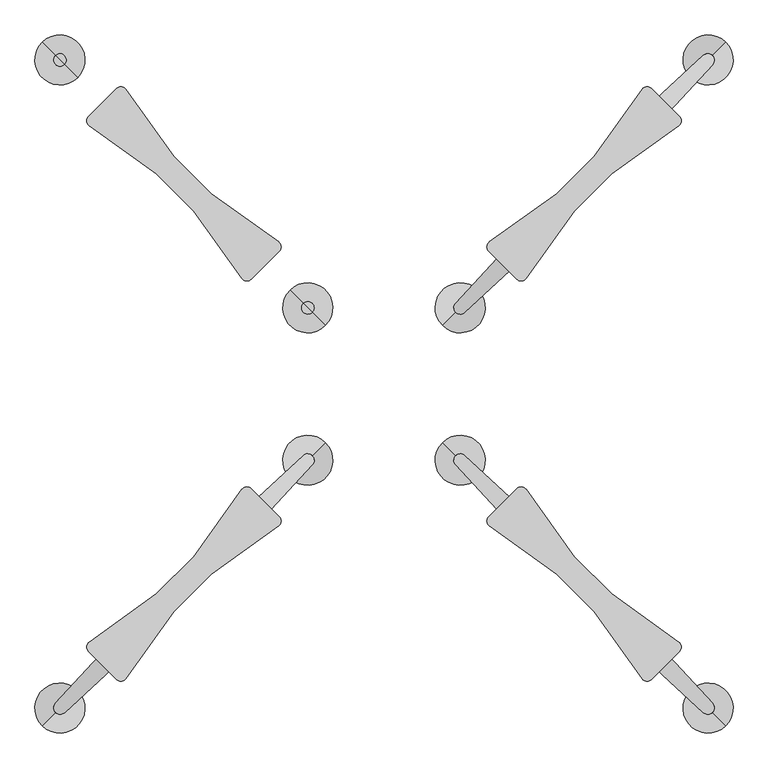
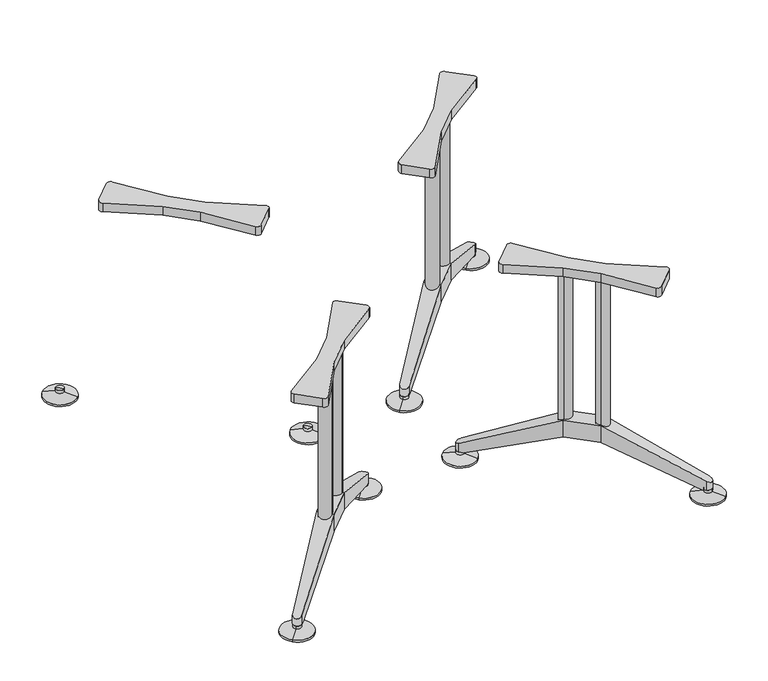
"""IFC4 building model written with IfcOpenShell, lengths in millimetres: furniture geometry, Furniture_Wilkhahn_620-24_Logon Table-Rectangle : Logon 620/23_1550L x 1550W x 730H."""

from ifc_helpers import new_model, si_unit, point, frame, frame_2d, origin, place, context, project, spatial, polyline, circle_curve, ellipse_curve, trimmed, segment, composite_curve, outline, extrude, source, transform, mapped, element, save
from ifc_brep_helpers import plane_surface, cylinder_surface, revolved_surface, advanced_brep


def furniture_db33388b(model_context):
    return source(origin(), model_context, "Body", "SolidModel", [
        advanced_brep(
        [(152.3752526, -126.4240982, 0.0), (117.0199136, -91.0687591, 0.0), (187.7305917, -161.7794373, 0.0), (117.0199136, -91.0687591, 6.0), (187.7305917, -161.7794373, 6.0), (143.5536444, -117.60249, 17.0), (161.1968609, -135.2457064, 17.0), (143.5536444, -117.60249, 27.0), (161.1968609, -135.2457064, 27.0), (152.3752526, -126.4240982, 27.0)],
        [
            (0, 1),
            (1, 2, circle_curve(frame((152.3752526, -126.4240982, 0.0), z_axis=(0.0, 0.0, -1.0), x_axis=(-0.7071067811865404, 0.7071067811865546, 0.0)), 50.0)),
            (2, 0),
            (2, 1, circle_curve(frame((152.3752526, -126.4240982, 0.0), z_axis=(0.0, 0.0, -1.0), x_axis=(-0.7071067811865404, 0.7071067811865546, 0.0)), 50.0)),
            (1, 3),
            (3, 4, circle_curve(frame((152.3752526, -126.4240982, 6.0), z_axis=(0.0, 0.0, -1.0), x_axis=(-0.7071067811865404, 0.7071067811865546, 0.0)), 50.0)),
            (4, 2),
            (4, 3, circle_curve(frame((152.3752526, -126.4240982, 6.0), z_axis=(0.0, 0.0, -1.0), x_axis=(-0.7071067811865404, 0.7071067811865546, 0.0)), 50.0)),
            (3, 5),
            (5, 6, circle_curve(frame((152.3752526, -126.4240982, 17.0), z_axis=(0.0, 0.0, -1.0), x_axis=(-0.7071067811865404, 0.7071067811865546, 0.0)), 12.475638)),
            (6, 4),
            (6, 5, circle_curve(frame((152.3752526, -126.4240982, 17.0), z_axis=(0.0, 0.0, -1.0), x_axis=(-0.7071067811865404, 0.7071067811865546, 0.0)), 12.475638)),
            (5, 7),
            (7, 8, circle_curve(frame((152.3752526, -126.4240982, 27.0), z_axis=(0.0, 0.0, -1.0), x_axis=(-0.7071067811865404, 0.7071067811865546, 0.0)), 12.475638)),
            (8, 6),
            (8, 7, circle_curve(frame((152.3752526, -126.4240982, 27.0), z_axis=(0.0, 0.0, -1.0), x_axis=(-0.7071067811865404, 0.7071067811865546, 0.0)), 12.475638)),
            (7, 9),
            (9, 8),
        ],
        [
            plane_surface(frame((152.3752526, -126.4240982, 0.0), z_axis=(0.0, 0.0, -1.0), x_axis=(-0.7071067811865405, 0.7071067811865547, 0.0))),
            cylinder_surface(frame((152.3752526, -126.4240982, 27.0), z_axis=(0.0, 0.0, -1.0), x_axis=(-0.7071067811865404, 0.7071067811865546, 0.0)), 50.0),
            revolved_surface(polyline([(143.5536444, -117.60249, 17.0), (117.0199136, -91.0687591, 6.0)]), (152.3752526, -126.4240982, 27.0), (0.0, 0.0, -1.0)),
            cylinder_surface(frame((152.3752526, -126.4240982, 27.0), z_axis=(0.0, 0.0, -1.0), x_axis=(-0.7071067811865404, 0.7071067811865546, 0.0)), 12.475638),
            plane_surface(frame((152.3752526, -126.4240982, 27.0), z_axis=(0.0, 0.0, 1.0), x_axis=(-0.7071067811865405, 0.7071067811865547, 0.0))),
        ],
        [
            (0, [[1, 2, 3]]),
            (0, [[-3, 4, -1]]),
            (1, [[-2, 5, 6, 7]]),
            (1, [[-4, -7, 8, -5]]),
            (2, [[-6, 9, 10, 11]]),
            (2, [[-8, -11, 12, -9]]),
            (3, [[-10, 13, 14, 15]]),
            (3, [[-12, -15, 16, -13]]),
            (4, [[-14, 17, 18]]),
            (4, [[-16, -18, -17]]),
        ],
    ),
        advanced_brep(
        [(612.7362202, -586.7850658, 0.0), (683.4468984, -657.4957439, 0.0), (648.0915593, -622.1404049, 0.0), (612.7362202, -586.7850658, 6.0), (683.4468984, -657.4957439, 6.0), (639.2699511, -613.3187966, 17.0), (656.9131675, -630.9620131, 17.0), (639.2699511, -613.3187966, 27.0), (656.9131675, -630.9620131, 27.0), (648.0915593, -622.1404049, 27.0)],
        [
            (0, 1, circle_curve(frame((648.0915593, -622.1404049, 0.0), z_axis=(0.0, 0.0, -1.0), x_axis=(0.7071067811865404, -0.7071067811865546, 0.0)), 50.0)),
            (1, 2),
            (2, 0),
            (1, 0, circle_curve(frame((648.0915593, -622.1404049, 0.0), z_axis=(0.0, 0.0, -1.0), x_axis=(0.7071067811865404, -0.7071067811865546, 0.0)), 50.0)),
            (3, 4, circle_curve(frame((648.0915593, -622.1404049, 6.0), z_axis=(0.0, 0.0, -1.0), x_axis=(0.7071067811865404, -0.7071067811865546, 0.0)), 50.0)),
            (4, 1),
            (0, 3),
            (4, 3, circle_curve(frame((648.0915593, -622.1404049, 6.0), z_axis=(0.0, 0.0, -1.0), x_axis=(0.7071067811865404, -0.7071067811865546, 0.0)), 50.0)),
            (5, 6, circle_curve(frame((648.0915593, -622.1404049, 17.0), z_axis=(0.0, 0.0, -1.0), x_axis=(0.7071067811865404, -0.7071067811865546, 0.0)), 12.475638)),
            (6, 4),
            (3, 5),
            (6, 5, circle_curve(frame((648.0915593, -622.1404049, 17.0), z_axis=(0.0, 0.0, -1.0), x_axis=(0.7071067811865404, -0.7071067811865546, 0.0)), 12.475638)),
            (7, 8, circle_curve(frame((648.0915593, -622.1404049, 27.0), z_axis=(0.0, 0.0, -1.0), x_axis=(0.7071067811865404, -0.7071067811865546, 0.0)), 12.475638)),
            (8, 6),
            (5, 7),
            (8, 7, circle_curve(frame((648.0915593, -622.1404049, 27.0), z_axis=(0.0, 0.0, -1.0), x_axis=(0.7071067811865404, -0.7071067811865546, 0.0)), 12.475638)),
            (9, 8),
            (7, 9),
        ],
        [
            plane_surface(frame((648.0915593, -622.1404049, 0.0), z_axis=(0.0, 0.0, -1.0), x_axis=(0.7071067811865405, -0.7071067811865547, 0.0))),
            cylinder_surface(frame((648.0915593, -622.1404049, 27.0), z_axis=(0.0, 0.0, 1.0), x_axis=(0.7071067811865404, -0.7071067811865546, 0.0)), 50.0),
            revolved_surface(polyline([(683.4468984, -657.4957439, 6.0), (656.9131675, -630.9620131, 17.0)]), (648.0915593, -622.1404049, 27.0), (0.0, 0.0, 1.0)),
            cylinder_surface(frame((648.0915593, -622.1404049, 27.0), z_axis=(0.0, 0.0, 1.0), x_axis=(0.7071067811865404, -0.7071067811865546, 0.0)), 12.475638),
            plane_surface(frame((648.0915593, -622.1404049, 27.0), z_axis=(0.0, 0.0, 1.0), x_axis=(0.7071067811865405, -0.7071067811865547, 0.0))),
        ],
        [
            (0, [[1, 2, 3]]),
            (0, [[4, -3, -2]]),
            (1, [[5, 6, -1, 7]]),
            (1, [[8, -7, -4, -6]]),
            (2, [[9, 10, -5, 11]]),
            (2, [[12, -11, -8, -10]]),
            (3, [[13, 14, -9, 15]]),
            (3, [[16, -15, -12, -14]]),
            (4, [[17, -13, 18]]),
            (4, [[-18, -16, -17]]),
        ],
    ),
        extrude(outline(composite_curve([segment(polyline([(345.079077, -354.4832617), (210.8873397, -258.073664)]), True, "CONTINUOUS"), segment(trimmed(circle_curve(frame_2d((217.8890225, -248.3280784)), 12.0), [point((210.8873397, -258.073664))], [point((209.4037411, -239.842797))], False, "CARTESIAN"), True, "CONTINUOUS"), segment(polyline([(209.4037411, -239.842797), (265.7939515, -183.4525867)]), True, "CONTINUOUS"), segment(trimmed(circle_curve(frame_2d((274.2792328, -191.9378681)), 12.0), [point((265.7939515, -183.4525867))], [point((284.0248184, -184.9361853))], False, "CARTESIAN"), True, "CONTINUOUS"), segment(polyline([(284.0248184, -184.9361853), (380.4344161, -319.1279226), (455.3877349, -394.0812414), (589.5794723, -490.4908391)]), True, "CONTINUOUS"), segment(trimmed(circle_curve(frame_2d((582.5777894, -500.2364247)), 12.0), [point((589.5794723, -490.4908391))], [point((591.0630708, -508.721706))], False, "CARTESIAN"), True, "CONTINUOUS"), segment(polyline([(591.0630708, -508.721706), (534.6728605, -565.1119164)]), True, "CONTINUOUS"), segment(trimmed(circle_curve(frame_2d((526.1875791, -556.626635)), 12.0), [point((534.6728605, -565.1119164))], [point((516.4419936, -563.6283178))], False, "CARTESIAN"), True, "CONTINUOUS"), segment(polyline([(516.4419936, -563.6283178), (420.0323958, -429.4365805), (345.079077, -354.4832617)]), True, "CONTINUOUS")], self_intersect=False)), frame((0.0, 0.0, 675.0), z_axis=(0.0, 0.0, 1.0), x_axis=(1.0, 0.0, 0.0)), (0.0, 0.0, 1.0), 29.0),
        advanced_brep(
        [(455.3877349, -394.0812414, 140.0), (380.4344161, -319.1279226, 140.0), (380.4344161, -319.1279226, 195.0), (455.3877349, -394.0812414, 195.0), (420.0323958, -429.4365805, 195.0), (345.079077, -354.4832617, 195.0), (345.079077, -354.4832617, 140.0), (420.0323958, -429.4365805, 140.0), (629.7289296, -622.8598181, 27.0), (648.8109725, -603.7777752, 27.0), (657.2764666, -612.9554976, 27.0), (656.9131675, -630.9620131, 27.0), (638.906652, -631.3253122, 27.0), (638.906652, -631.3253122, 56.4159205), (656.9131675, -630.9620131, 50.6048844), (657.2764666, -612.9554976, 56.4159205), (143.1903453, -135.6090055, 56.4159205), (143.1903453, -135.6090055, 27.0), (151.6558394, -144.7867279, 27.0), (161.5601599, -117.2391909, 27.0), (161.5601599, -117.2391909, 56.4159205), (170.7378823, -125.704685, 27.0), (143.5536444, -117.60249, 27.0), (143.5536444, -117.60249, 50.6048844)],
        [
            (0, 1),
            (1, 2),
            (2, 3),
            (3, 0),
            (4, 5),
            (5, 6),
            (6, 7),
            (7, 4),
            (8, 9),
            (9, 10),
            (10, 11, circle_curve(frame((647.7207794, -621.769625, 27.0), z_axis=(0.0, 0.0, -1.0), x_axis=(-0.7071067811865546, -0.7071067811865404, 0.0)), 13.0)),
            (11, 12, circle_curve(frame((647.7207794, -621.769625, 27.0), z_axis=(0.0, 0.0, -1.0), x_axis=(-0.7071067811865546, -0.7071067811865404, 0.0)), 13.0)),
            (12, 8),
            (3, 4),
            (4, 13),
            (13, 14, ellipse_curve(frame((647.7207794, -621.769625, 56.6601634), z_axis=(0.2985640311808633, -0.29856403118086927, 0.9064871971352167), x_axis=(0.640983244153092, -0.6409832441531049, -0.42223330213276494)), 14.341074, 13.0)),
            (14, 15, ellipse_curve(frame((647.7207794, -621.769625, 56.6601634), z_axis=(0.2985640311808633, -0.29856403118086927, 0.9064871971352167), x_axis=(0.640983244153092, -0.6409832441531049, -0.42223330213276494)), 14.341074, 13.0)),
            (15, 3),
            (7, 0),
            (0, 9),
            (8, 7),
            (16, 17),
            (17, 18),
            (18, 6),
            (5, 16),
            (19, 20),
            (20, 2),
            (1, 21),
            (21, 19),
            (2, 5),
            (6, 1),
            (19, 22, circle_curve(frame((152.7460326, -126.7948781, 27.0), z_axis=(0.0, 0.0, 1.0), x_axis=(-0.7071067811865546, -0.7071067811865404, 0.0)), 13.0)),
            (22, 17, circle_curve(frame((152.7460326, -126.7948781, 27.0), z_axis=(0.0, 0.0, 1.0), x_axis=(-0.7071067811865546, -0.7071067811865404, 0.0)), 13.0)),
            (16, 23, ellipse_curve(frame((152.7460326, -126.7948781, 56.6601634), z_axis=(0.2985640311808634, -0.2985640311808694, -0.9064871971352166), x_axis=(-0.640983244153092, 0.6409832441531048, -0.4222333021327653)), 14.341074, 13.0)),
            (23, 20, ellipse_curve(frame((152.7460326, -126.7948781, 56.6601634), z_axis=(0.2985640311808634, -0.2985640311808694, -0.9064871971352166), x_axis=(-0.640983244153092, 0.6409832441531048, -0.4222333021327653)), 14.341074, 13.0)),
            (15, 10),
            (13, 12),
            (21, 18),
        ],
        [
            plane_surface(frame((662.7492452, -601.4427517, 27.0), z_axis=(0.7071067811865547, 0.7071067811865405, 0.0), x_axis=(-0.7071067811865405, 0.7071067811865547, 0.0))),
            plane_surface(frame((627.3939061, -636.7980908, 27.0), z_axis=(-0.7071067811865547, -0.7071067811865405, 0.0), x_axis=(0.7071067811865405, -0.7071067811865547, 0.0))),
            plane_surface(frame((621.5922815, -630.9964662, 27.0), z_axis=(0.0, 0.0, -1.0), x_axis=(0.7071067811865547, 0.7071067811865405, 0.0))),
            plane_surface(frame((639.235498, -648.6396826, 50.6048844), z_axis=(0.29856403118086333, -0.2985640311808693, 0.906487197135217), x_axis=(0.7071067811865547, 0.7071067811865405, 0.0))),
            plane_surface(frame((420.0323958, -429.4365805, 140.0), z_axis=(-0.2605848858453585, 0.2605848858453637, -0.929618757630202), x_axis=(0.7071067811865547, 0.7071067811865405, 0.0))),
            plane_surface(frame((345.079077, -354.4832617, 195.0), z_axis=(-0.7350528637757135, -0.6780097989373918, 0.0), x_axis=(0.0, 0.0, -1.0))),
            plane_surface(frame((161.5601599, -117.2391909, 195.0), z_axis=(0.6780097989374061, 0.7350528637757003, 0.0), x_axis=(0.0, 0.0, -1.0))),
            plane_surface(frame((420.0323958, -429.4365805, 195.0), z_axis=(0.0, 0.0, 1.0), x_axis=(0.7071067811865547, 0.7071067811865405, 0.0))),
            plane_surface(frame((345.079077, -354.4832617, 140.0), z_axis=(0.0, 0.0, -1.0), x_axis=(0.7071067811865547, 0.7071067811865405, 0.0))),
            cylinder_surface(frame((152.7460326, -126.7948781, 0.0), z_axis=(0.0, 0.0, -1.0), x_axis=(-0.7071067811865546, -0.7071067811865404, 0.0)), 13.0),
            plane_surface(frame((455.3877349, -394.0812414, 195.0), z_axis=(0.7350528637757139, 0.6780097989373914, 0.0), x_axis=(0.0, 0.0, -1.0))),
            cylinder_surface(frame((647.7207794, -621.769625, -14.190167), z_axis=(0.0, 0.0, -1.0), x_axis=(-0.7071067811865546, -0.7071067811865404, 0.0)), 13.0),
            plane_surface(frame((638.906652, -631.3253122, 195.0), z_axis=(-0.6780097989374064, -0.7350528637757, 0.0), x_axis=(0.0, 0.0, -1.0))),
            plane_surface(frame((345.079077, -354.4832617, 195.0), z_axis=(-0.29856403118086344, 0.29856403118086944, 0.9064871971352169), x_axis=(0.7071067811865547, 0.7071067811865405, 0.0))),
            plane_surface(frame((125.8759749, -135.2801595, 27.0), z_axis=(0.0, 0.0, -1.0), x_axis=(0.7071067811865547, 0.7071067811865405, 0.0))),
            plane_surface(frame((143.5191913, -152.923376, 27.0), z_axis=(0.26058488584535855, -0.26058488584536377, -0.929618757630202), x_axis=(0.7071067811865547, 0.7071067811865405, 0.0))),
        ],
        [
            (0, [[1, 2, 3, 4]]),
            (1, [[5, 6, 7, 8]]),
            (2, [[9, 10, 11, 12, 13]]),
            (3, [[14, 15, 16, 17, 18]]),
            (4, [[19, 20, -9, 21]]),
            (5, [[22, 23, 24, -6, 25]]),
            (6, [[26, 27, -2, 28, 29]]),
            (7, [[-3, 30, -5, -14]]),
            (8, [[-1, -19, -7, 31]]),
            (9, [[-26, 32, 33, -22, 34, 35]]),
            (10, [[36, -10, -20, -4, -18]]),
            (11, [[-36, -17, -16, 37, -12, -11]]),
            (12, [[-37, -15, -8, -21, -13]]),
            (13, [[-30, -27, -35, -34, -25]]),
            (14, [[38, -23, -33, -32, -29]]),
            (15, [[-31, -24, -38, -28]]),
        ],
    ),
        extrude(outline(composite_curve([segment(trimmed(circle_curve(frame_2d((362.7567466, -336.8055921)), 20.0), [point((376.8988822, -322.6634565))], [point((348.6146109, -350.9477278))], False, "CARTESIAN"), True, "CONTINUOUS"), segment(trimmed(circle_curve(frame_2d((362.7567466, -336.8055921)), 20.0), [point((348.6146109, -350.9477278))], [point((376.8988822, -322.6634565))], False, "CARTESIAN"), True, "CONTINUOUS")], self_intersect=False)), frame((0.0, 0.0, 140.0), z_axis=(0.0, 0.0, 1.0), x_axis=(1.0, 0.0, 0.0)), (0.0, 0.0, 1.0), 535.0),
        extrude(outline(composite_curve([segment(trimmed(circle_curve(frame_2d((437.7100654, -411.7589109)), 20.0), [point((451.852201, -397.6167753))], [point((423.5679298, -425.9010466))], False, "CARTESIAN"), True, "CONTINUOUS"), segment(trimmed(circle_curve(frame_2d((437.7100654, -411.7589109)), 20.0), [point((423.5679298, -425.9010466))], [point((451.852201, -397.6167753))], False, "CARTESIAN"), True, "CONTINUOUS")], self_intersect=False)), frame((0.0, 0.0, 140.0), z_axis=(0.0, 0.0, 1.0), x_axis=(1.0, 0.0, 0.0)), (0.0, 0.0, 1.0), 535.0),
        advanced_brep(
        [(-152.3752526, -126.4240982, 0.0), (-187.7305917, -161.7794373, 0.0), (-117.0199136, -91.0687591, 0.0), (-187.7305917, -161.7794373, 6.0), (-117.0199136, -91.0687591, 6.0), (-161.1968609, -135.2457064, 17.0), (-143.5536444, -117.60249, 17.0), (-161.1968609, -135.2457064, 27.0), (-143.5536444, -117.60249, 27.0), (-152.3752526, -126.4240982, 27.0)],
        [
            (0, 1),
            (1, 2, circle_curve(frame((-152.3752526, -126.4240982, 0.0), z_axis=(0.0, 0.0, -1.0), x_axis=(0.7071067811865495, 0.7071067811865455, 0.0)), 50.0)),
            (2, 0),
            (2, 1, circle_curve(frame((-152.3752526, -126.4240982, 0.0), z_axis=(0.0, 0.0, -1.0), x_axis=(0.7071067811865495, 0.7071067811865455, 0.0)), 50.0)),
            (1, 3),
            (3, 4, circle_curve(frame((-152.3752526, -126.4240982, 6.0), z_axis=(0.0, 0.0, -1.0), x_axis=(0.7071067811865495, 0.7071067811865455, 0.0)), 50.0)),
            (4, 2),
            (4, 3, circle_curve(frame((-152.3752526, -126.4240982, 6.0), z_axis=(0.0, 0.0, -1.0), x_axis=(0.7071067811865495, 0.7071067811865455, 0.0)), 50.0)),
            (3, 5),
            (5, 6, circle_curve(frame((-152.3752526, -126.4240982, 17.0), z_axis=(0.0, 0.0, -1.0), x_axis=(0.7071067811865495, 0.7071067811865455, 0.0)), 12.475638)),
            (6, 4),
            (6, 5, circle_curve(frame((-152.3752526, -126.4240982, 17.0), z_axis=(0.0, 0.0, -1.0), x_axis=(0.7071067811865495, 0.7071067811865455, 0.0)), 12.475638)),
            (5, 7),
            (7, 8, circle_curve(frame((-152.3752526, -126.4240982, 27.0), z_axis=(0.0, 0.0, -1.0), x_axis=(0.7071067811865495, 0.7071067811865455, 0.0)), 12.475638)),
            (8, 6),
            (8, 7, circle_curve(frame((-152.3752526, -126.4240982, 27.0), z_axis=(0.0, 0.0, -1.0), x_axis=(0.7071067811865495, 0.7071067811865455, 0.0)), 12.475638)),
            (7, 9),
            (9, 8),
        ],
        [
            plane_surface(frame((-152.3752526, -126.4240982, 0.0), z_axis=(0.0, 0.0, -1.0), x_axis=(0.7071067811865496, 0.7071067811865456, 0.0))),
            cylinder_surface(frame((-152.3752526, -126.4240982, 27.0), z_axis=(0.0, 0.0, -1.0), x_axis=(0.7071067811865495, 0.7071067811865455, 0.0)), 50.0),
            revolved_surface(polyline([(-143.5536444, -117.60249, 17.0), (-117.0199136, -91.0687591, 6.0)]), (-152.3752526, -126.4240982, 27.0), (0.0, 0.0, -1.0)),
            cylinder_surface(frame((-152.3752526, -126.4240982, 27.0), z_axis=(0.0, 0.0, -1.0), x_axis=(0.7071067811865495, 0.7071067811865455, 0.0)), 12.475638),
            plane_surface(frame((-152.3752526, -126.4240982, 27.0), z_axis=(0.0, 0.0, 1.0), x_axis=(0.7071067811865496, 0.7071067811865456, 0.0))),
        ],
        [
            (0, [[1, 2, 3]]),
            (0, [[-3, 4, -1]]),
            (1, [[5, 6, 7, -2]]),
            (1, [[-7, 8, -5, -4]]),
            (2, [[9, 10, 11, -6]]),
            (2, [[-11, 12, -9, -8]]),
            (3, [[13, 14, 15, -10]]),
            (3, [[-15, 16, -13, -12]]),
            (4, [[17, 18, -14]]),
            (4, [[-18, -17, -16]]),
        ],
    ),
        advanced_brep(
        [(-612.7362202, -586.7850658, 0.0), (-648.0915593, -622.1404049, 0.0), (-683.4468984, -657.4957439, 0.0), (-612.7362202, -586.7850658, 6.0), (-683.4468984, -657.4957439, 6.0), (-639.2699511, -613.3187966, 17.0), (-656.9131675, -630.9620131, 17.0), (-639.2699511, -613.3187966, 27.0), (-656.9131675, -630.9620131, 27.0), (-648.0915593, -622.1404049, 27.0)],
        [
            (0, 1),
            (1, 2),
            (2, 0, circle_curve(frame((-648.0915593, -622.1404049, 0.0), z_axis=(0.0, 0.0, -1.0), x_axis=(-0.7071067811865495, -0.7071067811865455, 0.0)), 50.0)),
            (0, 2, circle_curve(frame((-648.0915593, -622.1404049, 0.0), z_axis=(0.0, 0.0, -1.0), x_axis=(-0.7071067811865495, -0.7071067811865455, 0.0)), 50.0)),
            (3, 0),
            (2, 4),
            (4, 3, circle_curve(frame((-648.0915593, -622.1404049, 6.0), z_axis=(0.0, 0.0, -1.0), x_axis=(-0.7071067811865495, -0.7071067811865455, 0.0)), 50.0)),
            (3, 4, circle_curve(frame((-648.0915593, -622.1404049, 6.0), z_axis=(0.0, 0.0, -1.0), x_axis=(-0.7071067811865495, -0.7071067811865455, 0.0)), 50.0)),
            (5, 3),
            (4, 6),
            (6, 5, circle_curve(frame((-648.0915593, -622.1404049, 17.0), z_axis=(0.0, 0.0, -1.0), x_axis=(-0.7071067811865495, -0.7071067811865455, 0.0)), 12.475638)),
            (5, 6, circle_curve(frame((-648.0915593, -622.1404049, 17.0), z_axis=(0.0, 0.0, -1.0), x_axis=(-0.7071067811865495, -0.7071067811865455, 0.0)), 12.475638)),
            (7, 5),
            (6, 8),
            (8, 7, circle_curve(frame((-648.0915593, -622.1404049, 27.0), z_axis=(0.0, 0.0, -1.0), x_axis=(-0.7071067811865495, -0.7071067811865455, 0.0)), 12.475638)),
            (7, 8, circle_curve(frame((-648.0915593, -622.1404049, 27.0), z_axis=(0.0, 0.0, -1.0), x_axis=(-0.7071067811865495, -0.7071067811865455, 0.0)), 12.475638)),
            (9, 7),
            (8, 9),
        ],
        [
            plane_surface(frame((-648.0915593, -622.1404049, 0.0), z_axis=(0.0, 0.0, -1.0), x_axis=(-0.7071067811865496, -0.7071067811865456, 0.0))),
            cylinder_surface(frame((-648.0915593, -622.1404049, 27.0), z_axis=(0.0, 0.0, 1.0), x_axis=(-0.7071067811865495, -0.7071067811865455, 0.0)), 50.0),
            revolved_surface(polyline([(-683.4468984, -657.4957439, 6.0), (-656.9131675, -630.9620131, 17.0)]), (-648.0915593, -622.1404049, 27.0), (0.0, 0.0, 1.0)),
            cylinder_surface(frame((-648.0915593, -622.1404049, 27.0), z_axis=(0.0, 0.0, 1.0), x_axis=(-0.7071067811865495, -0.7071067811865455, 0.0)), 12.475638),
            plane_surface(frame((-648.0915593, -622.1404049, 27.0), z_axis=(0.0, 0.0, 1.0), x_axis=(-0.7071067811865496, -0.7071067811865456, 0.0))),
        ],
        [
            (0, [[1, 2, 3]]),
            (0, [[-2, -1, 4]]),
            (1, [[5, -3, 6, 7]]),
            (1, [[-6, -4, -5, 8]]),
            (2, [[9, -7, 10, 11]]),
            (2, [[-10, -8, -9, 12]]),
            (3, [[13, -11, 14, 15]]),
            (3, [[-14, -12, -13, 16]]),
            (4, [[17, -15, 18]]),
            (4, [[-18, -16, -17]]),
        ],
    ),
        extrude(outline(composite_curve([segment(polyline([(-345.079077, -354.4832617), (-420.0323958, -429.4365805), (-516.4419936, -563.6283178)]), True, "CONTINUOUS"), segment(trimmed(circle_curve(frame_2d((-526.1875791, -556.626635)), 12.0), [point((-516.4419936, -563.6283178))], [point((-534.6728605, -565.1119164))], False, "CARTESIAN"), True, "CONTINUOUS"), segment(polyline([(-534.6728605, -565.1119164), (-591.0630708, -508.721706)]), True, "CONTINUOUS"), segment(trimmed(circle_curve(frame_2d((-582.5777894, -500.2364247)), 12.0), [point((-591.0630708, -508.721706))], [point((-589.5794723, -490.4908391))], False, "CARTESIAN"), True, "CONTINUOUS"), segment(polyline([(-589.5794723, -490.4908391), (-455.3877349, -394.0812414), (-380.4344161, -319.1279226), (-284.0248184, -184.9361853)]), True, "CONTINUOUS"), segment(trimmed(circle_curve(frame_2d((-274.2792328, -191.9378681)), 12.0), [point((-284.0248184, -184.9361853))], [point((-265.7939515, -183.4525867))], False, "CARTESIAN"), True, "CONTINUOUS"), segment(polyline([(-265.7939515, -183.4525867), (-209.4037411, -239.842797)]), True, "CONTINUOUS"), segment(trimmed(circle_curve(frame_2d((-217.8890225, -248.3280784)), 12.0), [point((-209.4037411, -239.842797))], [point((-210.8873397, -258.073664))], False, "CARTESIAN"), True, "CONTINUOUS"), segment(polyline([(-210.8873397, -258.073664), (-345.079077, -354.4832617)]), True, "CONTINUOUS")], self_intersect=False)), frame((0.0, 0.0, 675.0), z_axis=(0.0, 0.0, 1.0), x_axis=(1.0, 0.0, 0.0)), (0.0, 0.0, 1.0), 29.0),
        advanced_brep(
        [(-455.3877349, -394.0812414, 140.0), (-455.3877349, -394.0812414, 195.0), (-380.4344161, -319.1279226, 195.0), (-380.4344161, -319.1279226, 140.0), (-420.0323958, -429.4365805, 195.0), (-420.0323958, -429.4365805, 140.0), (-345.079077, -354.4832617, 140.0), (-345.079077, -354.4832617, 195.0), (-629.7289296, -622.8598181, 27.0), (-638.906652, -631.3253122, 27.0), (-656.9131675, -630.9620131, 27.0), (-657.2764666, -612.9554976, 27.0), (-648.8109725, -603.7777752, 27.0), (-657.2764666, -612.9554976, 56.4159205), (-656.9131675, -630.9620131, 50.6048844), (-638.906652, -631.3253122, 56.4159205), (-143.1903453, -135.6090055, 56.4159205), (-151.6558394, -144.7867279, 27.0), (-143.1903453, -135.6090055, 27.0), (-161.5601599, -117.2391909, 27.0), (-170.7378823, -125.704685, 27.0), (-161.5601599, -117.2391909, 56.4159205), (-143.5536444, -117.60249, 50.6048844), (-143.5536444, -117.60249, 27.0)],
        [
            (0, 1),
            (1, 2),
            (2, 3),
            (3, 0),
            (4, 5),
            (5, 6),
            (6, 7),
            (7, 4),
            (8, 9),
            (9, 10, circle_curve(frame((-647.7207794, -621.769625, 27.0), z_axis=(0.0, 0.0, -1.0), x_axis=(0.7071067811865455, -0.7071067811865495, 0.0)), 13.0)),
            (10, 11, circle_curve(frame((-647.7207794, -621.769625, 27.0), z_axis=(0.0, 0.0, -1.0), x_axis=(0.7071067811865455, -0.7071067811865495, 0.0)), 13.0)),
            (11, 12),
            (12, 8),
            (1, 13),
            (13, 14, ellipse_curve(frame((-647.7207794, -621.769625, 56.6601634), z_axis=(-0.2985640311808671, -0.29856403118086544, 0.9064871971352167), x_axis=(-0.6409832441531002, -0.6409832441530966, -0.42223330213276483)), 14.341074, 13.0)),
            (14, 15, ellipse_curve(frame((-647.7207794, -621.769625, 56.6601634), z_axis=(-0.2985640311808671, -0.29856403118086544, 0.9064871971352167), x_axis=(-0.6409832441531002, -0.6409832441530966, -0.42223330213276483)), 14.341074, 13.0)),
            (15, 4),
            (4, 1),
            (5, 8),
            (12, 0),
            (0, 5),
            (16, 7),
            (6, 17),
            (17, 18),
            (18, 16),
            (19, 20),
            (20, 3),
            (2, 21),
            (21, 19),
            (7, 2),
            (3, 6),
            (21, 22, ellipse_curve(frame((-152.7460326, -126.7948781, 56.6601634), z_axis=(-0.2985640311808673, -0.29856403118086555, -0.9064871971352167), x_axis=(0.6409832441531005, 0.6409832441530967, -0.4222333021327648)), 14.341074, 13.0)),
            (22, 16, ellipse_curve(frame((-152.7460326, -126.7948781, 56.6601634), z_axis=(-0.2985640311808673, -0.29856403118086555, -0.9064871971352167), x_axis=(0.6409832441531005, 0.6409832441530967, -0.4222333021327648)), 14.341074, 13.0)),
            (18, 23, circle_curve(frame((-152.7460326, -126.7948781, 27.0), z_axis=(0.0, 0.0, 1.0), x_axis=(0.7071067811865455, -0.7071067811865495, 0.0)), 13.0)),
            (23, 19, circle_curve(frame((-152.7460326, -126.7948781, 27.0), z_axis=(0.0, 0.0, 1.0), x_axis=(0.7071067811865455, -0.7071067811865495, 0.0)), 13.0)),
            (11, 13),
            (9, 15),
            (17, 20),
        ],
        [
            plane_surface(frame((-662.7492452, -601.4427517, 27.0), z_axis=(-0.7071067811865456, 0.7071067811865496, 0.0), x_axis=(0.7071067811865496, 0.7071067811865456, 0.0))),
            plane_surface(frame((-627.3939061, -636.7980908, 27.0), z_axis=(0.7071067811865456, -0.7071067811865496, 0.0), x_axis=(-0.7071067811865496, -0.7071067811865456, 0.0))),
            plane_surface(frame((-621.5922815, -630.9964662, 27.0), z_axis=(0.0, 0.0, -1.0), x_axis=(-0.7071067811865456, 0.7071067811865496, 0.0))),
            plane_surface(frame((-639.235498, -648.6396826, 50.6048844), z_axis=(-0.29856403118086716, -0.2985640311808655, 0.906487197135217), x_axis=(-0.7071067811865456, 0.7071067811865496, 0.0))),
            plane_surface(frame((-420.0323958, -429.4365805, 140.0), z_axis=(0.2605848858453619, 0.2605848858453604, -0.9296187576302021), x_axis=(-0.7071067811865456, 0.7071067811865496, 0.0))),
            plane_surface(frame((-345.079077, -354.4832617, 195.0), z_axis=(0.7350528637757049, -0.6780097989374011, 0.0), x_axis=(0.0, 0.0, -1.0))),
            plane_surface(frame((-161.5601599, -117.2391909, 195.0), z_axis=(-0.6780097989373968, 0.735052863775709, 0.0), x_axis=(0.0, 0.0, -1.0))),
            plane_surface(frame((-420.0323958, -429.4365805, 195.0), z_axis=(0.0, 0.0, 1.0), x_axis=(-0.7071067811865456, 0.7071067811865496, 0.0))),
            plane_surface(frame((-345.079077, -354.4832617, 140.0), z_axis=(0.0, 0.0, -1.0), x_axis=(-0.7071067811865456, 0.7071067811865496, 0.0))),
            cylinder_surface(frame((-152.7460326, -126.7948781, 0.0), z_axis=(0.0, 0.0, -1.0), x_axis=(0.7071067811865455, -0.7071067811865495, 0.0)), 13.0),
            plane_surface(frame((-455.3877349, -394.0812414, 195.0), z_axis=(-0.7350528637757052, 0.6780097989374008, 0.0), x_axis=(0.0, 0.0, -1.0))),
            cylinder_surface(frame((-647.7207794, -621.769625, -14.190167), z_axis=(0.0, 0.0, -1.0), x_axis=(0.7071067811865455, -0.7071067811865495, 0.0)), 13.0),
            plane_surface(frame((-638.906652, -631.3253122, 195.0), z_axis=(0.6780097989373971, -0.7350528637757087, 0.0), x_axis=(0.0, 0.0, -1.0))),
            plane_surface(frame((-345.079077, -354.4832617, 195.0), z_axis=(0.2985640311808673, 0.29856403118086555, 0.9064871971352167), x_axis=(-0.7071067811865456, 0.7071067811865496, 0.0))),
            plane_surface(frame((-125.8759749, -135.2801595, 27.0), z_axis=(0.0, 0.0, -1.0), x_axis=(-0.7071067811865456, 0.7071067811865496, 0.0))),
            plane_surface(frame((-143.5191913, -152.923376, 27.0), z_axis=(-0.26058488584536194, -0.2605848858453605, -0.9296187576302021), x_axis=(-0.7071067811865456, 0.7071067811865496, 0.0))),
        ],
        [
            (0, [[1, 2, 3, 4]]),
            (1, [[5, 6, 7, 8]]),
            (2, [[9, 10, 11, 12, 13]]),
            (3, [[14, 15, 16, 17, 18]]),
            (4, [[19, -13, 20, 21]]),
            (5, [[22, -7, 23, 24, 25]]),
            (6, [[26, 27, -3, 28, 29]]),
            (7, [[-18, -8, 30, -2]]),
            (8, [[31, -6, -21, -4]]),
            (9, [[32, 33, -25, 34, 35, -29]]),
            (10, [[-14, -1, -20, -12, 36]]),
            (11, [[-11, -10, 37, -16, -15, -36]]),
            (12, [[-9, -19, -5, -17, -37]]),
            (13, [[-22, -33, -32, -28, -30]]),
            (14, [[-26, -35, -34, -24, 38]]),
            (15, [[-27, -38, -23, -31]]),
        ],
    ),
        extrude(outline(composite_curve([segment(trimmed(circle_curve(frame_2d((-362.7567466, -336.8055921)), 20.0), [point((-376.8988822, -322.6634565))], [point((-348.6146109, -350.9477278))], False, "CARTESIAN"), True, "CONTINUOUS"), segment(trimmed(circle_curve(frame_2d((-362.7567466, -336.8055921)), 20.0), [point((-348.6146109, -350.9477278))], [point((-376.8988822, -322.6634565))], False, "CARTESIAN"), True, "CONTINUOUS")], self_intersect=False)), frame((0.0, 0.0, 140.0), z_axis=(0.0, 0.0, 1.0), x_axis=(1.0, 0.0, 0.0)), (0.0, 0.0, 1.0), 535.0),
        extrude(outline(composite_curve([segment(trimmed(circle_curve(frame_2d((-437.7100654, -411.7589109)), 20.0), [point((-451.852201, -397.6167753))], [point((-423.5679298, -425.9010466))], False, "CARTESIAN"), True, "CONTINUOUS"), segment(trimmed(circle_curve(frame_2d((-437.7100654, -411.7589109)), 20.0), [point((-423.5679298, -425.9010466))], [point((-451.852201, -397.6167753))], False, "CARTESIAN"), True, "CONTINUOUS")], self_intersect=False)), frame((0.0, 0.0, 140.0), z_axis=(0.0, 0.0, 1.0), x_axis=(1.0, 0.0, 0.0)), (0.0, 0.0, 1.0), 535.0),
        advanced_brep(
        [(152.3752526, 178.3264071, 0.0), (187.7305917, 213.6817461, 0.0), (117.0199136, 142.971068, 0.0), (187.7305917, 213.6817461, 6.0), (117.0199136, 142.971068, 6.0), (161.1968609, 187.1480153, 17.0), (143.5536444, 169.5047988, 17.0), (161.1968609, 187.1480153, 27.0), (143.5536444, 169.5047988, 27.0), (152.3752526, 178.3264071, 27.0)],
        [
            (0, 1),
            (1, 2, circle_curve(frame((152.3752526, 178.3264071, 0.0), z_axis=(0.0, 0.0, -1.0), x_axis=(-0.7071067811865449, -0.70710678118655, 0.0)), 50.0)),
            (2, 0),
            (2, 1, circle_curve(frame((152.3752526, 178.3264071, 0.0), z_axis=(0.0, 0.0, -1.0), x_axis=(-0.7071067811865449, -0.70710678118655, 0.0)), 50.0)),
            (1, 3),
            (3, 4, circle_curve(frame((152.3752526, 178.3264071, 6.0), z_axis=(0.0, 0.0, -1.0), x_axis=(-0.7071067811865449, -0.70710678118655, 0.0)), 50.0)),
            (4, 2),
            (4, 3, circle_curve(frame((152.3752526, 178.3264071, 6.0), z_axis=(0.0, 0.0, -1.0), x_axis=(-0.7071067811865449, -0.70710678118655, 0.0)), 50.0)),
            (3, 5),
            (5, 6, circle_curve(frame((152.3752526, 178.3264071, 17.0), z_axis=(0.0, 0.0, -1.0), x_axis=(-0.7071067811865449, -0.70710678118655, 0.0)), 12.475638)),
            (6, 4),
            (6, 5, circle_curve(frame((152.3752526, 178.3264071, 17.0), z_axis=(0.0, 0.0, -1.0), x_axis=(-0.7071067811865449, -0.70710678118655, 0.0)), 12.475638)),
            (5, 7),
            (7, 8, circle_curve(frame((152.3752526, 178.3264071, 27.0), z_axis=(0.0, 0.0, -1.0), x_axis=(-0.7071067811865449, -0.70710678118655, 0.0)), 12.475638)),
            (8, 6),
            (8, 7, circle_curve(frame((152.3752526, 178.3264071, 27.0), z_axis=(0.0, 0.0, -1.0), x_axis=(-0.7071067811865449, -0.70710678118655, 0.0)), 12.475638)),
            (7, 9),
            (9, 8),
        ],
        [
            plane_surface(frame((152.3752526, 178.3264071, 0.0), z_axis=(0.0, 0.0, -1.0), x_axis=(-0.707106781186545, -0.7071067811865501, 0.0))),
            cylinder_surface(frame((152.3752526, 178.3264071, 27.0), z_axis=(0.0, 0.0, -1.0), x_axis=(-0.7071067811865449, -0.70710678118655, 0.0)), 50.0),
            revolved_surface(polyline([(143.5536444, 169.5047988, 17.0), (117.0199136, 142.971068, 6.0)]), (152.3752526, 178.3264071, 27.0), (0.0, 0.0, -1.0)),
            cylinder_surface(frame((152.3752526, 178.3264071, 27.0), z_axis=(0.0, 0.0, -1.0), x_axis=(-0.7071067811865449, -0.70710678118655, 0.0)), 12.475638),
            plane_surface(frame((152.3752526, 178.3264071, 27.0), z_axis=(0.0, 0.0, 1.0), x_axis=(-0.707106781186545, -0.7071067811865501, 0.0))),
        ],
        [
            (0, [[1, 2, 3]]),
            (0, [[-3, 4, -1]]),
            (1, [[5, 6, 7, -2]]),
            (1, [[-7, 8, -5, -4]]),
            (2, [[9, 10, 11, -6]]),
            (2, [[-11, 12, -9, -8]]),
            (3, [[13, 14, 15, -10]]),
            (3, [[-15, 16, -13, -12]]),
            (4, [[17, 18, -14]]),
            (4, [[-18, -17, -16]]),
        ],
    ),
        advanced_brep(
        [(612.7362202, 638.6873747, 0.0), (648.0915593, 674.0427137, 0.0), (683.4468984, 709.3980528, 0.0), (612.7362202, 638.6873747, 6.0), (683.4468984, 709.3980528, 6.0), (639.2699511, 665.2211055, 17.0), (656.9131675, 682.864322, 17.0), (639.2699511, 665.2211055, 27.0), (656.9131675, 682.864322, 27.0), (648.0915593, 674.0427137, 27.0)],
        [
            (0, 1),
            (1, 2),
            (2, 0, circle_curve(frame((648.0915593, 674.0427137, 0.0), z_axis=(0.0, 0.0, -1.0), x_axis=(0.7071067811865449, 0.70710678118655, 0.0)), 50.0)),
            (0, 2, circle_curve(frame((648.0915593, 674.0427137, 0.0), z_axis=(0.0, 0.0, -1.0), x_axis=(0.7071067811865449, 0.70710678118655, 0.0)), 50.0)),
            (3, 0),
            (2, 4),
            (4, 3, circle_curve(frame((648.0915593, 674.0427137, 6.0), z_axis=(0.0, 0.0, -1.0), x_axis=(0.7071067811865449, 0.70710678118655, 0.0)), 50.0)),
            (3, 4, circle_curve(frame((648.0915593, 674.0427137, 6.0), z_axis=(0.0, 0.0, -1.0), x_axis=(0.7071067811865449, 0.70710678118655, 0.0)), 50.0)),
            (5, 3),
            (4, 6),
            (6, 5, circle_curve(frame((648.0915593, 674.0427137, 17.0), z_axis=(0.0, 0.0, -1.0), x_axis=(0.7071067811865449, 0.70710678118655, 0.0)), 12.475638)),
            (5, 6, circle_curve(frame((648.0915593, 674.0427137, 17.0), z_axis=(0.0, 0.0, -1.0), x_axis=(0.7071067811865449, 0.70710678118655, 0.0)), 12.475638)),
            (7, 5),
            (6, 8),
            (8, 7, circle_curve(frame((648.0915593, 674.0427137, 27.0), z_axis=(0.0, 0.0, -1.0), x_axis=(0.7071067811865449, 0.70710678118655, 0.0)), 12.475638)),
            (7, 8, circle_curve(frame((648.0915593, 674.0427137, 27.0), z_axis=(0.0, 0.0, -1.0), x_axis=(0.7071067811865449, 0.70710678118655, 0.0)), 12.475638)),
            (9, 7),
            (8, 9),
        ],
        [
            plane_surface(frame((648.0915593, 674.0427137, 0.0), z_axis=(0.0, 0.0, -1.0), x_axis=(0.707106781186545, 0.7071067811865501, 0.0))),
            cylinder_surface(frame((648.0915593, 674.0427137, 27.0), z_axis=(0.0, 0.0, 1.0), x_axis=(0.7071067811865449, 0.70710678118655, 0.0)), 50.0),
            revolved_surface(polyline([(683.4468984, 709.3980528, 6.0), (656.9131675, 682.864322, 17.0)]), (648.0915593, 674.0427137, 27.0), (0.0, 0.0, 1.0)),
            cylinder_surface(frame((648.0915593, 674.0427137, 27.0), z_axis=(0.0, 0.0, 1.0), x_axis=(0.7071067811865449, 0.70710678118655, 0.0)), 12.475638),
            plane_surface(frame((648.0915593, 674.0427137, 27.0), z_axis=(0.0, 0.0, 1.0), x_axis=(0.707106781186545, 0.7071067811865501, 0.0))),
        ],
        [
            (0, [[1, 2, 3]]),
            (0, [[-2, -1, 4]]),
            (1, [[5, -3, 6, 7]]),
            (1, [[-6, -4, -5, 8]]),
            (2, [[9, -7, 10, 11]]),
            (2, [[-10, -8, -9, 12]]),
            (3, [[13, -11, 14, 15]]),
            (3, [[-14, -12, -13, 16]]),
            (4, [[17, -15, 18]]),
            (4, [[-18, -16, -17]]),
        ],
    ),
        extrude(outline(composite_curve([segment(polyline([(345.079077, 406.3855705), (420.0323958, 481.3388893), (516.4419936, 615.5306267)]), True, "CONTINUOUS"), segment(trimmed(circle_curve(frame_2d((526.1875791, 608.5289439)), 12.0), [point((516.4419936, 615.5306267))], [point((534.6728605, 617.0142252))], False, "CARTESIAN"), True, "CONTINUOUS"), segment(polyline([(534.6728605, 617.0142252), (591.0630708, 560.6240149)]), True, "CONTINUOUS"), segment(trimmed(circle_curve(frame_2d((582.5777894, 552.1387335)), 12.0), [point((591.0630708, 560.6240149))], [point((589.5794723, 542.393148))], False, "CARTESIAN"), True, "CONTINUOUS"), segment(polyline([(589.5794723, 542.393148), (455.3877349, 445.9835503), (380.4344161, 371.0302315), (284.0248184, 236.8384941)]), True, "CONTINUOUS"), segment(trimmed(circle_curve(frame_2d((274.2792328, 243.8401769)), 12.0), [point((284.0248184, 236.8384941))], [point((265.7939515, 235.3548956))], False, "CARTESIAN"), True, "CONTINUOUS"), segment(polyline([(265.7939515, 235.3548956), (209.4037411, 291.7451059)]), True, "CONTINUOUS"), segment(trimmed(circle_curve(frame_2d((217.8890225, 300.2303873)), 12.0), [point((209.4037411, 291.7451059))], [point((210.8873397, 309.9759728))], False, "CARTESIAN"), True, "CONTINUOUS"), segment(polyline([(210.8873397, 309.9759728), (345.079077, 406.3855705)]), True, "CONTINUOUS")], self_intersect=False)), frame((0.0, 0.0, 675.0), z_axis=(0.0, 0.0, 1.0), x_axis=(1.0, 0.0, 0.0)), (0.0, 0.0, 1.0), 29.0),
        advanced_brep(
        [(455.3877349, 445.9835503, 140.0), (455.3877349, 445.9835503, 195.0), (380.4344161, 371.0302315, 195.0), (380.4344161, 371.0302315, 140.0), (420.0323958, 481.3388893, 195.0), (420.0323958, 481.3388893, 140.0), (345.079077, 406.3855705, 140.0), (345.079077, 406.3855705, 195.0), (629.7289296, 674.7621269, 27.0), (638.906652, 683.227621, 27.0), (656.9131675, 682.864322, 27.0), (657.2764666, 664.8578064, 27.0), (648.8109725, 655.6800841, 27.0), (657.2764666, 664.8578064, 56.4159205), (656.9131675, 682.864322, 50.6048844), (638.906652, 683.227621, 56.4159205), (143.1903453, 187.5113144, 56.4159205), (151.6558394, 196.6890367, 27.0), (143.1903453, 187.5113144, 27.0), (161.5601599, 169.1414998, 27.0), (170.7378823, 177.6069939, 27.0), (161.5601599, 169.1414998, 56.4159205), (143.5536444, 169.5047988, 50.6048844), (143.5536444, 169.5047988, 27.0)],
        [
            (0, 1),
            (1, 2),
            (2, 3),
            (3, 0),
            (4, 5),
            (5, 6),
            (6, 7),
            (7, 4),
            (8, 9),
            (9, 10, circle_curve(frame((647.7207794, 673.6719338, 27.0), z_axis=(0.0, 0.0, -1.0), x_axis=(-0.70710678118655, 0.7071067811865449, 0.0)), 13.0)),
            (10, 11, circle_curve(frame((647.7207794, 673.6719338, 27.0), z_axis=(0.0, 0.0, -1.0), x_axis=(-0.70710678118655, 0.7071067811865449, 0.0)), 13.0)),
            (11, 12),
            (12, 8),
            (1, 13),
            (13, 14, ellipse_curve(frame((647.7207794, 673.6719338, 56.6601634), z_axis=(0.2985640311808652, 0.29856403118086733, 0.9064871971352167), x_axis=(0.6409832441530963, 0.6409832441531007, -0.42223330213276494)), 14.341074, 13.0)),
            (14, 15, ellipse_curve(frame((647.7207794, 673.6719338, 56.6601634), z_axis=(0.2985640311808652, 0.29856403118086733, 0.9064871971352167), x_axis=(0.6409832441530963, 0.6409832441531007, -0.42223330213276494)), 14.341074, 13.0)),
            (15, 4),
            (4, 1),
            (5, 8),
            (12, 0),
            (0, 5),
            (16, 7),
            (6, 17),
            (17, 18),
            (18, 16),
            (19, 20),
            (20, 3),
            (2, 21),
            (21, 19),
            (7, 2),
            (3, 6),
            (21, 22, ellipse_curve(frame((152.7460326, 178.697187, 56.6601634), z_axis=(0.2985640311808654, 0.29856403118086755, -0.9064871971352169), x_axis=(-0.6409832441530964, -0.6409832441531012, -0.4222333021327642)), 14.341074, 13.0)),
            (22, 16, ellipse_curve(frame((152.7460326, 178.697187, 56.6601634), z_axis=(0.2985640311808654, 0.29856403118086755, -0.9064871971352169), x_axis=(-0.6409832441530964, -0.6409832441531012, -0.4222333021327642)), 14.341074, 13.0)),
            (18, 23, circle_curve(frame((152.7460326, 178.697187, 27.0), z_axis=(0.0, 0.0, 1.0), x_axis=(-0.70710678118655, 0.7071067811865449, 0.0)), 13.0)),
            (23, 19, circle_curve(frame((152.7460326, 178.697187, 27.0), z_axis=(0.0, 0.0, 1.0), x_axis=(-0.70710678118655, 0.7071067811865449, 0.0)), 13.0)),
            (11, 13),
            (9, 15),
            (17, 20),
        ],
        [
            plane_surface(frame((662.7492452, 653.3450606, 27.0), z_axis=(0.7071067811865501, -0.707106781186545, 0.0), x_axis=(-0.707106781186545, -0.7071067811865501, 0.0))),
            plane_surface(frame((627.3939061, 688.7003996, 27.0), z_axis=(-0.7071067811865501, 0.707106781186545, 0.0), x_axis=(0.707106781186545, 0.7071067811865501, 0.0))),
            plane_surface(frame((621.5922815, 682.898775, 27.0), z_axis=(0.0, 0.0, -1.0), x_axis=(0.7071067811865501, -0.707106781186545, 0.0))),
            plane_surface(frame((639.235498, 700.5419915, 50.6048844), z_axis=(0.2985640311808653, 0.2985640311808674, 0.906487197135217), x_axis=(0.7071067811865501, -0.707106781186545, 0.0))),
            plane_surface(frame((420.0323958, 481.3388893, 140.0), z_axis=(-0.2605848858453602, -0.2605848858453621, -0.9296187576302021), x_axis=(0.7071067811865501, -0.707106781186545, 0.0))),
            plane_surface(frame((345.079077, 406.3855705, 195.0), z_axis=(-0.7350528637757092, 0.6780097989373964, 0.0), x_axis=(0.0, 0.0, -1.0))),
            plane_surface(frame((161.5601599, 169.1414998, 195.0), z_axis=(0.6780097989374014, -0.7350528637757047, 0.0), x_axis=(0.0, 0.0, -1.0))),
            plane_surface(frame((420.0323958, 481.3388893, 195.0), z_axis=(0.0, 0.0, 1.0), x_axis=(0.7071067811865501, -0.707106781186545, 0.0))),
            plane_surface(frame((345.079077, 406.3855705, 140.0), z_axis=(0.0, 0.0, -1.0), x_axis=(0.7071067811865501, -0.707106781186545, 0.0))),
            cylinder_surface(frame((152.7460326, 178.697187, 0.0), z_axis=(0.0, 0.0, -1.0), x_axis=(-0.70710678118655, 0.7071067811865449, 0.0)), 13.0),
            plane_surface(frame((455.3877349, 445.9835503, 195.0), z_axis=(0.7350528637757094, -0.6780097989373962, 0.0), x_axis=(0.0, 0.0, -1.0))),
            cylinder_surface(frame((647.7207794, 673.6719338, -14.190167), z_axis=(0.0, 0.0, -1.0), x_axis=(-0.70710678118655, 0.7071067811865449, 0.0)), 13.0),
            plane_surface(frame((638.906652, 683.227621, 195.0), z_axis=(-0.6780097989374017, 0.7350528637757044, 0.0), x_axis=(0.0, 0.0, -1.0))),
            plane_surface(frame((345.079077, 406.3855705, 195.0), z_axis=(-0.29856403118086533, -0.2985640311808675, 0.9064871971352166), x_axis=(0.7071067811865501, -0.707106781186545, 0.0))),
            plane_surface(frame((125.8759749, 187.1824684, 27.0), z_axis=(0.0, 0.0, -1.0), x_axis=(0.7071067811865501, -0.707106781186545, 0.0))),
            plane_surface(frame((143.5191913, 204.8256848, 27.0), z_axis=(0.26058488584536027, 0.26058488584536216, -0.9296187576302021), x_axis=(0.7071067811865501, -0.707106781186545, 0.0))),
        ],
        [
            (0, [[1, 2, 3, 4]]),
            (1, [[5, 6, 7, 8]]),
            (2, [[9, 10, 11, 12, 13]]),
            (3, [[14, 15, 16, 17, 18]]),
            (4, [[19, -13, 20, 21]]),
            (5, [[22, -7, 23, 24, 25]]),
            (6, [[26, 27, -3, 28, 29]]),
            (7, [[-18, -8, 30, -2]]),
            (8, [[31, -6, -21, -4]]),
            (9, [[32, 33, -25, 34, 35, -29]]),
            (10, [[-14, -1, -20, -12, 36]]),
            (11, [[-11, -10, 37, -16, -15, -36]]),
            (12, [[-9, -19, -5, -17, -37]]),
            (13, [[-22, -33, -32, -28, -30]]),
            (14, [[-26, -35, -34, -24, 38]]),
            (15, [[-27, -38, -23, -31]]),
        ],
    ),
        extrude(outline(composite_curve([segment(trimmed(circle_curve(frame_2d((362.7567466, 388.707901)), 20.0), [point((376.8988822, 374.5657654))], [point((348.6146109, 402.8500366))], False, "CARTESIAN"), True, "CONTINUOUS"), segment(trimmed(circle_curve(frame_2d((362.7567466, 388.707901)), 20.0), [point((348.6146109, 402.8500366))], [point((376.8988822, 374.5657654))], False, "CARTESIAN"), True, "CONTINUOUS")], self_intersect=False)), frame((0.0, 0.0, 140.0), z_axis=(0.0, 0.0, 1.0), x_axis=(1.0, 0.0, 0.0)), (0.0, 0.0, 1.0), 535.0),
        extrude(outline(composite_curve([segment(trimmed(circle_curve(frame_2d((437.7100654, 463.6612198)), 20.0), [point((451.852201, 449.5190842))], [point((423.5679298, 477.8033554))], False, "CARTESIAN"), True, "CONTINUOUS"), segment(trimmed(circle_curve(frame_2d((437.7100654, 463.6612198)), 20.0), [point((423.5679298, 477.8033554))], [point((451.852201, 449.5190842))], False, "CARTESIAN"), True, "CONTINUOUS")], self_intersect=False)), frame((0.0, 0.0, 140.0), z_axis=(0.0, 0.0, 1.0), x_axis=(1.0, 0.0, 0.0)), (0.0, 0.0, 1.0), 535.0),
        advanced_brep(
        [(-152.3752526, 178.3264071, 0.0), (-117.0199136, 142.971068, 0.0), (-187.7305917, 213.6817461, 0.0), (-117.0199136, 142.971068, 6.0), (-187.7305917, 213.6817461, 6.0), (-143.5536444, 169.5047988, 17.0), (-161.1968609, 187.1480153, 17.0), (-143.5536444, 169.5047988, 27.0), (-161.1968609, 187.1480153, 27.0), (-152.3752526, 178.3264071, 27.0)],
        [
            (0, 1),
            (1, 2, circle_curve(frame((-152.3752526, 178.3264071, 0.0), z_axis=(0.0, 0.0, -1.0), x_axis=(0.7071067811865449, -0.70710678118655, 0.0)), 50.0)),
            (2, 0),
            (2, 1, circle_curve(frame((-152.3752526, 178.3264071, 0.0), z_axis=(0.0, 0.0, -1.0), x_axis=(0.7071067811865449, -0.70710678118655, 0.0)), 50.0)),
            (1, 3),
            (3, 4, circle_curve(frame((-152.3752526, 178.3264071, 6.0), z_axis=(0.0, 0.0, -1.0), x_axis=(0.7071067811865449, -0.70710678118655, 0.0)), 50.0)),
            (4, 2),
            (4, 3, circle_curve(frame((-152.3752526, 178.3264071, 6.0), z_axis=(0.0, 0.0, -1.0), x_axis=(0.7071067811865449, -0.70710678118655, 0.0)), 50.0)),
            (3, 5),
            (5, 6, circle_curve(frame((-152.3752526, 178.3264071, 17.0), z_axis=(0.0, 0.0, -1.0), x_axis=(0.7071067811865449, -0.70710678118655, 0.0)), 12.475638)),
            (6, 4),
            (6, 5, circle_curve(frame((-152.3752526, 178.3264071, 17.0), z_axis=(0.0, 0.0, -1.0), x_axis=(0.7071067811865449, -0.70710678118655, 0.0)), 12.475638)),
            (5, 7),
            (7, 8, circle_curve(frame((-152.3752526, 178.3264071, 27.0), z_axis=(0.0, 0.0, -1.0), x_axis=(0.7071067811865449, -0.70710678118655, 0.0)), 12.475638)),
            (8, 6),
            (8, 7, circle_curve(frame((-152.3752526, 178.3264071, 27.0), z_axis=(0.0, 0.0, -1.0), x_axis=(0.7071067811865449, -0.70710678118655, 0.0)), 12.475638)),
            (7, 9),
            (9, 8),
        ],
        [
            plane_surface(frame((-152.3752526, 178.3264071, 0.0), z_axis=(0.0, 0.0, -1.0), x_axis=(0.707106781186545, -0.7071067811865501, 0.0))),
            cylinder_surface(frame((-152.3752526, 178.3264071, 27.0), z_axis=(0.0, 0.0, -1.0), x_axis=(0.7071067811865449, -0.70710678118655, 0.0)), 50.0),
            revolved_surface(polyline([(-143.5536444, 169.5047988, 17.0), (-117.0199136, 142.971068, 6.0)]), (-152.3752526, 178.3264071, 27.0), (0.0, 0.0, -1.0)),
            cylinder_surface(frame((-152.3752526, 178.3264071, 27.0), z_axis=(0.0, 0.0, -1.0), x_axis=(0.7071067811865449, -0.70710678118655, 0.0)), 12.475638),
            plane_surface(frame((-152.3752526, 178.3264071, 27.0), z_axis=(0.0, 0.0, 1.0), x_axis=(0.707106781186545, -0.7071067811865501, 0.0))),
        ],
        [
            (0, [[1, 2, 3]]),
            (0, [[-3, 4, -1]]),
            (1, [[-2, 5, 6, 7]]),
            (1, [[-4, -7, 8, -5]]),
            (2, [[-6, 9, 10, 11]]),
            (2, [[-8, -11, 12, -9]]),
            (3, [[-10, 13, 14, 15]]),
            (3, [[-12, -15, 16, -13]]),
            (4, [[-14, 17, 18]]),
            (4, [[-16, -18, -17]]),
        ],
    ),
        advanced_brep(
        [(-612.7362202, 638.6873747, 0.0), (-683.4468984, 709.3980528, 0.0), (-648.0915593, 674.0427137, 0.0), (-612.7362202, 638.6873747, 6.0), (-683.4468984, 709.3980528, 6.0), (-639.2699511, 665.2211055, 17.0), (-656.9131675, 682.864322, 17.0), (-639.2699511, 665.2211055, 27.0), (-656.9131675, 682.864322, 27.0), (-648.0915593, 674.0427137, 27.0)],
        [
            (0, 1, circle_curve(frame((-648.0915593, 674.0427137, 0.0), z_axis=(0.0, 0.0, -1.0), x_axis=(-0.7071067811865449, 0.70710678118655, 0.0)), 50.0)),
            (1, 2),
            (2, 0),
            (1, 0, circle_curve(frame((-648.0915593, 674.0427137, 0.0), z_axis=(0.0, 0.0, -1.0), x_axis=(-0.7071067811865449, 0.70710678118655, 0.0)), 50.0)),
            (3, 4, circle_curve(frame((-648.0915593, 674.0427137, 6.0), z_axis=(0.0, 0.0, -1.0), x_axis=(-0.7071067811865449, 0.70710678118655, 0.0)), 50.0)),
            (4, 1),
            (0, 3),
            (4, 3, circle_curve(frame((-648.0915593, 674.0427137, 6.0), z_axis=(0.0, 0.0, -1.0), x_axis=(-0.7071067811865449, 0.70710678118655, 0.0)), 50.0)),
            (5, 6, circle_curve(frame((-648.0915593, 674.0427137, 17.0), z_axis=(0.0, 0.0, -1.0), x_axis=(-0.7071067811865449, 0.70710678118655, 0.0)), 12.475638)),
            (6, 4),
            (3, 5),
            (6, 5, circle_curve(frame((-648.0915593, 674.0427137, 17.0), z_axis=(0.0, 0.0, -1.0), x_axis=(-0.7071067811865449, 0.70710678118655, 0.0)), 12.475638)),
            (7, 8, circle_curve(frame((-648.0915593, 674.0427137, 27.0), z_axis=(0.0, 0.0, -1.0), x_axis=(-0.7071067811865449, 0.70710678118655, 0.0)), 12.475638)),
            (8, 6),
            (5, 7),
            (8, 7, circle_curve(frame((-648.0915593, 674.0427137, 27.0), z_axis=(0.0, 0.0, -1.0), x_axis=(-0.7071067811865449, 0.70710678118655, 0.0)), 12.475638)),
            (9, 8),
            (7, 9),
        ],
        [
            plane_surface(frame((-648.0915593, 674.0427137, 0.0), z_axis=(0.0, 0.0, -1.0), x_axis=(-0.707106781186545, 0.7071067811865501, 0.0))),
            cylinder_surface(frame((-648.0915593, 674.0427137, 27.0), z_axis=(0.0, 0.0, 1.0), x_axis=(-0.7071067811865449, 0.70710678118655, 0.0)), 50.0),
            revolved_surface(polyline([(-683.4468984, 709.3980528, 6.0), (-656.9131675, 682.864322, 17.0)]), (-648.0915593, 674.0427137, 27.0), (0.0, 0.0, 1.0)),
            cylinder_surface(frame((-648.0915593, 674.0427137, 27.0), z_axis=(0.0, 0.0, 1.0), x_axis=(-0.7071067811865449, 0.70710678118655, 0.0)), 12.475638),
            plane_surface(frame((-648.0915593, 674.0427137, 27.0), z_axis=(0.0, 0.0, 1.0), x_axis=(-0.707106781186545, 0.7071067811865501, 0.0))),
        ],
        [
            (0, [[1, 2, 3]]),
            (0, [[4, -3, -2]]),
            (1, [[5, 6, -1, 7]]),
            (1, [[8, -7, -4, -6]]),
            (2, [[9, 10, -5, 11]]),
            (2, [[12, -11, -8, -10]]),
            (3, [[13, 14, -9, 15]]),
            (3, [[16, -15, -12, -14]]),
            (4, [[17, -13, 18]]),
            (4, [[-18, -16, -17]]),
        ],
    ),
        extrude(outline(composite_curve([segment(polyline([(-345.079077, 406.3855705), (-210.8873397, 309.9759728)]), True, "CONTINUOUS"), segment(trimmed(circle_curve(frame_2d((-217.8890225, 300.2303873)), 12.0), [point((-210.8873397, 309.9759728))], [point((-209.4037411, 291.7451059))], False, "CARTESIAN"), True, "CONTINUOUS"), segment(polyline([(-209.4037411, 291.7451059), (-265.7939515, 235.3548956)]), True, "CONTINUOUS"), segment(trimmed(circle_curve(frame_2d((-274.2792328, 243.8401769)), 12.0), [point((-265.7939515, 235.3548956))], [point((-284.0248184, 236.8384941))], False, "CARTESIAN"), True, "CONTINUOUS"), segment(polyline([(-284.0248184, 236.8384941), (-380.4344161, 371.0302315), (-455.3877349, 445.9835503), (-589.5794723, 542.393148)]), True, "CONTINUOUS"), segment(trimmed(circle_curve(frame_2d((-582.5777894, 552.1387335)), 12.0), [point((-589.5794723, 542.393148))], [point((-591.0630708, 560.6240149))], False, "CARTESIAN"), True, "CONTINUOUS"), segment(polyline([(-591.0630708, 560.6240149), (-534.6728605, 617.0142252)]), True, "CONTINUOUS"), segment(trimmed(circle_curve(frame_2d((-526.1875791, 608.5289439)), 12.0), [point((-534.6728605, 617.0142252))], [point((-516.4419936, 615.5306267))], False, "CARTESIAN"), True, "CONTINUOUS"), segment(polyline([(-516.4419936, 615.5306267), (-420.0323958, 481.3388893), (-345.079077, 406.3855705)]), True, "CONTINUOUS")], self_intersect=False)), frame((0.0, 0.0, 675.0), z_axis=(0.0, 0.0, 1.0), x_axis=(1.0, 0.0, 0.0)), (0.0, 0.0, 1.0), 29.0),
    ])


if __name__ == "__main__":
    model = new_model("IFC4")
    model_context = context("Model", 3, world=origin())
    ifc_project = project(units=[si_unit("LENGTHUNIT", "METRE", prefix="MILLI")], contexts=[model_context])
    site = spatial("IfcSite", under=ifc_project)
    building = spatial("IfcBuilding", under=site)
    placement = place(None, origin())
    furniture_shape = furniture_db33388b(model_context)
    element("IfcFurniture", 1, ObjectType="Furniture_Wilkhahn_620-24_Logon Table-Rectangle : Logon 620/23_1550L x 1550W x 730H", at=placement, inside=building, context=model_context, shape_type="MappedRepresentation", body=[
        mapped(furniture_shape, transform((0.0, 0.0, 0.0), x_axis=(1.0, 0.0, 0.0), y_axis=(0.0, 1.0, 0.0), z_axis=(0.0, 0.0, 1.0))),
    ])
    save(model, "model.ifc")
